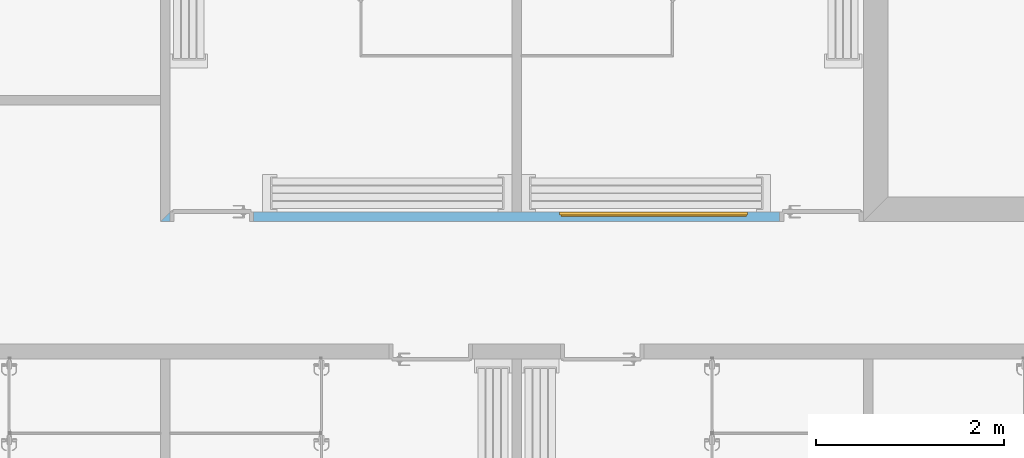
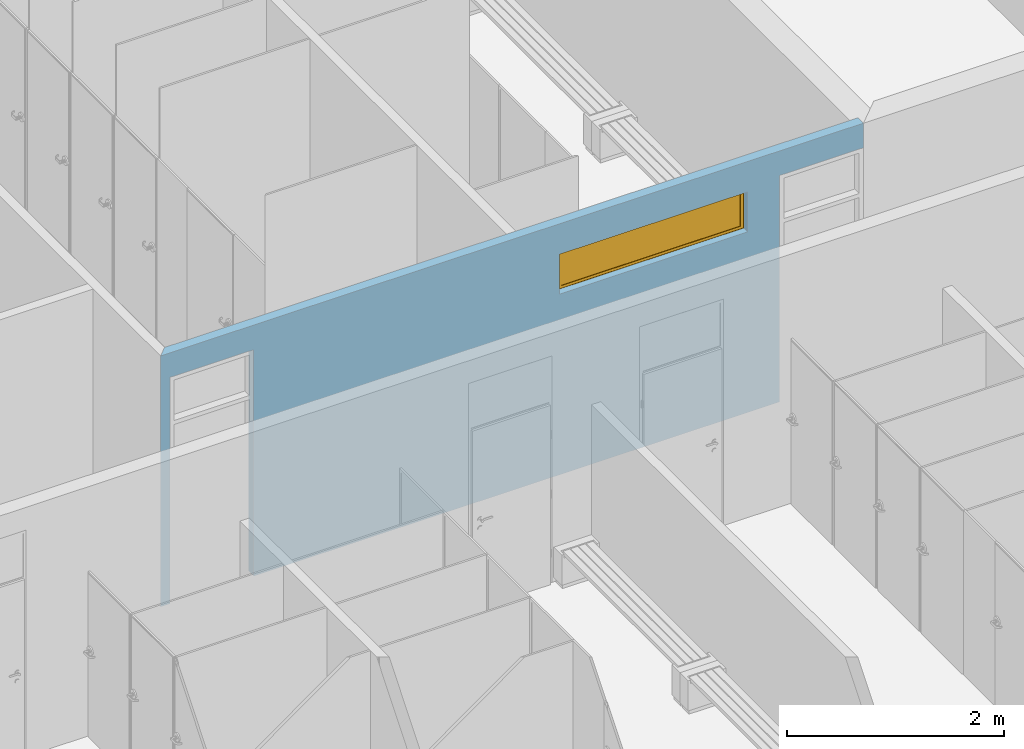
# One storey, part 37 of 45: 1 window, 3 openings, plus 1 element that does not belong to this part.
"""IFC2X3 building model written with IfcOpenShell, lengths in metres."""

from ifc_helpers import new_model, entity, si_unit, converted_unit, money_unit, direction, frame, origin_with_axes, place, context, subcontext, project, spatial, polyline, outline, extrude, open_shell, faceted_brep, surface_model, material, layer, layer_set, layer_usage, type_object, element, fill, save


model = new_model("IFC2X3")

# Units and contexts
model_context = context("Model", 3, precision=1e-05, world=origin_with_axes(), true_north=direction((0.0, 1.0)))
body_context = subcontext(model_context, "Body", "Model", "MODEL_VIEW")
ifc_project = project(units=[si_unit("LENGTHUNIT", "METRE"), si_unit("AREAUNIT", "SQUARE_METRE"), si_unit("VOLUMEUNIT", "CUBIC_METRE"), converted_unit("PLANEANGLEUNIT", "DEGREE", entity("IfcPlaneAngleMeasure", 0.0174532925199), si_unit("PLANEANGLEUNIT", "RADIAN"), dimensions=[0, 0, 0, 0, 0, 0, 0]), si_unit("SOLIDANGLEUNIT", "STERADIAN"), money_unit("EUR"), converted_unit("TIMEUNIT", "Year", entity("IfcTimeMeasure", 31556926.0), si_unit("TIMEUNIT", "SECOND"), dimensions=[0, 0, 0, 0, 0, 0, 0]), si_unit("MASSUNIT", "GRAM"), si_unit("THERMODYNAMICTEMPERATUREUNIT", "DEGREE_CELSIUS"), si_unit("LUMINOUSINTENSITYUNIT", "LUMEN")], contexts=[model_context])

# Site, building, storey
site_placement = place(None, origin_with_axes())
site = spatial("IfcSite", under=ifc_project, at=site_placement, Name="Site", CompositionType="ELEMENT")
building_placement = place(site_placement, origin_with_axes())
building = spatial("IfcBuilding", under=site, at=building_placement, Name="Bâtiment", CompositionType="ELEMENT")
storey_placement = place(building_placement, origin_with_axes())
storey = spatial("IfcBuildingStorey", under=building, at=storey_placement, Name="NIVEAU BAS GYMNASE", CompositionType="ELEMENT", Elevation=0.0)

# Wall, openings, window
ifc_material_1 = material(Name="Hachure solide* 3962059836")
ifc_layer = layer(ifc_material_1, 0.1, ventilated="UNKNOWN")
ifc_layer_set = layer_set([ifc_layer], Name="Hachure solide* 3962059836 0.1")
ifc_layer_usage = layer_usage(ifc_layer_set, "AXIS2", "POSITIVE", -0.1)
wall_type = type_object("IfcWallType", Name="Hachure solide* 3962059836 100", PredefinedType="NOTDEFINED")
wall_placement = place(storey_placement, frame((63.363457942, 14.568815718, 0.0), z_axis=(0.0, 0.0, 1.0), x_axis=(-1.0, 0.0, 0.0)))
wall = element("IfcWallStandardCase", 1, at=wall_placement, inside=storey, type_object=wall_type, material=ifc_layer_usage, Name="Mur-004", context=body_context, shape_type="SweptSolid", body=[
    extrude(outline(polyline([(0.26, -0.1), (7.63, -0.1), (7.73, 0.0), (0.26, 0.0), (0.26, -0.1)])), origin_with_axes(), (0.0, 0.0, 1.0), 2.82),
])
opening_1_placement = place(wall_placement, frame((2.48986697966, 0.0, 2.03), z_axis=(0.0, 0.0, 1.0), x_axis=(1.0, 0.0, 0.0)))
opening_1 = element("IfcOpeningElement", 2, at=opening_1_placement, cuts=wall, Name="Fen-027", context=body_context, shape_type="SweptSolid", body=[
    extrude(outline(polyline([(1.0, -0.45), (1.0, 0.0), (-1.0, 0.0), (-1.0, -0.45), (1.0, -0.45)])), frame((0.0, 0.1, 0.0), z_axis=(0.0, -1.0, 0.0), x_axis=(-1.0, 0.0, 0.0)), (0.0, 0.0, 1.0), 0.3),
])
opening_2_placement = place(wall_placement, frame((7.18500000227, 0.0, -0.01), z_axis=(0.0, 0.0, 1.0), x_axis=(1.0, 0.0, 0.0)))
element("IfcOpeningElement", 3, at=opening_2_placement, cuts=wall, Name="Por-018", context=body_context, shape_type="SweptSolid", body=[
    extrude(outline(polyline([(0.445, 0.0), (-0.445, 0.0), (-0.445, -2.555), (0.445, -2.555), (0.445, 0.0)])), frame((0.0, 0.1, 0.0), z_axis=(0.0, -1.0, 0.0), x_axis=(-1.0, 0.0, 0.0)), (0.0, 0.0, 1.0), 0.2),
])
opening_3_placement = place(wall_placement, frame((0.704999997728, 0.0, -0.01), z_axis=(0.0, 0.0, 1.0), x_axis=(1.0, 0.0, 0.0)))
element("IfcOpeningElement", 4, at=opening_3_placement, cuts=wall, Name="Por-019", context=body_context, shape_type="SweptSolid", body=[
    extrude(outline(polyline([(-0.445, 0.0), (-0.445, -2.555), (0.445, -2.555), (0.445, 0.0), (-0.445, 0.0)])), frame((0.0, 0.1, 0.0), z_axis=(0.0, -1.0, 0.0), x_axis=(-1.0, 0.0, 0.0)), (0.0, 0.0, 1.0), 0.2),
])
ifc_material_2 = material(Name="Sans Trame")
window_style = type_object("IfcWindowStyle", Name="Fen bascule 1 10", ConstructionType="NOTDEFINED", OperationType="SINGLE_PANEL", ParameterTakesPrecedence=False, Sizeable=False)
window_placement = place(opening_1_placement, frame((1.0, 0.0, 0.0), z_axis=(0.0, 0.0, 1.0), x_axis=(-1.0, 0.0, 0.0)))
window = element("IfcWindow", 5, at=window_placement, inside=storey, type_object=window_style, material=ifc_material_2, Name="Fen-027", OverallHeight=0.45, OverallWidth=2.0, context=body_context, shape_type="SurfaceModel", body=[
    faceted_brep([(1.985, 0.07, 0.42), (2.0, 0.07, 0.42), (2.0, 0.1, 0.42), (1.97, 0.1, 0.42), (1.97, 0.085, 0.42), (1.985, 0.085, 0.42), (1.985, 0.07, 0.03), (2.0, 0.07, 0.03), (2.0, 0.1, 0.03), (1.97, 0.1, 0.03), (1.97, 0.085, 0.03), (1.985, 0.085, 0.03)], [[[0, 1, 2, 3, 4, 5]], [[6, 7, 1, 0]], [[1, 7, 8, 2]], [[2, 8, 9, 3]], [[4, 3, 9, 10]], [[10, 11, 5, 4]], [[5, 11, 6, 0]], [[11, 10, 9, 8, 7, 6]]]),
    faceted_brep([(0.03, 0.085, 0.42), (0.03, 0.1, 0.42), (0.0, 0.1, 0.42), (0.0, 0.07, 0.42), (0.015, 0.07, 0.42), (0.015, 0.085, 0.42), (0.03, 0.085, 0.03), (0.03, 0.1, 0.03), (0.0, 0.1, 0.03), (0.0, 0.07, 0.03), (0.015, 0.07, 0.03), (0.015, 0.085, 0.03)], [[[0, 1, 2, 3, 4, 5]], [[6, 7, 1, 0]], [[8, 2, 1, 7]], [[9, 3, 2, 8]], [[4, 3, 9, 10]], [[10, 11, 5, 4]], [[5, 11, 6, 0]], [[11, 10, 9, 8, 7, 6]]]),
    faceted_brep([(1.985, 0.07, 0.42), (2.0, 0.07, 0.42), (2.0, 0.07, 0.45), (0.0, 0.07, 0.45), (0.0, 0.07, 0.42), (0.015, 0.07, 0.42), (0.015, 0.07, 0.435), (1.985, 0.07, 0.435), (1.985, 0.085, 0.42), (1.97, 0.085, 0.42), (1.97, 0.1, 0.42), (2.0, 0.1, 0.42), (2.0, 0.1, 0.45), (0.0, 0.1, 0.45), (0.0, 0.1, 0.42), (0.015, 0.085, 0.42), (0.03, 0.1, 0.42), (0.03, 0.085, 0.42), (0.015, 0.085, 0.435), (1.985, 0.085, 0.435)], [[[0, 1, 2, 3, 4, 5, 6, 7]], [[8, 9, 10, 11, 1, 0]], [[2, 1, 11, 12]], [[3, 2, 12, 13]], [[4, 3, 13, 14]], [[15, 5, 4, 14, 16, 17]], [[5, 15, 18, 6]], [[6, 18, 19, 7]], [[7, 19, 8, 0]], [[17, 9, 8, 19, 18, 15]], [[17, 16, 10, 9]], [[14, 13, 12, 11, 10, 16]]]),
    faceted_brep([(0.03, 0.085, 0.03), (0.03, 0.1, 0.03), (0.0, 0.1, 0.03), (0.0, 0.07, 0.03), (0.015, 0.07, 0.03), (0.015, 0.085, 0.03), (1.97, 0.085, 0.03), (1.97, 0.1, 0.03), (2.0, 0.1, 0.03), (2.0, 0.1, 0.0), (0.0, 0.1, 0.0), (0.0, 0.07, 0.0), (1.985, 0.07, 0.015), (0.015, 0.07, 0.015), (2.0, 0.07, 0.0), (2.0, 0.07, 0.03), (1.985, 0.07, 0.03), (0.015, 0.085, 0.015), (1.985, 0.085, 0.015), (1.985, 0.085, 0.03)], [[[0, 1, 2, 3, 4, 5]], [[6, 7, 1, 0]], [[8, 9, 10, 2, 1, 7]], [[11, 3, 2, 10]], [[12, 13, 4, 3, 11, 14, 15, 16]], [[13, 17, 5, 4]], [[5, 17, 18, 19, 6, 0]], [[19, 16, 15, 8, 7, 6]], [[15, 14, 9, 8]], [[14, 11, 10, 9]], [[12, 18, 17, 13]], [[19, 18, 12, 16]]]),
    faceted_brep([(0.045, 0.085, 0.045), (0.045, 0.085, 0.405), (0.045, 0.055, 0.405), (0.045, 0.055, 0.045), (0.015, 0.085, 0.045), (0.015, 0.085, 0.405), (0.015, 0.055, 0.405), (0.015, 0.055, 0.045)], [[[0, 1, 2, 3]], [[0, 4, 5, 1]], [[1, 5, 6, 2]], [[3, 2, 6, 7]], [[4, 0, 3, 7]], [[5, 4, 7, 6]]]),
    faceted_brep([(1.985, 0.085, 0.045), (1.985, 0.085, 0.405), (1.985, 0.055, 0.405), (1.985, 0.055, 0.045), (1.955, 0.085, 0.045), (1.955, 0.085, 0.405), (1.955, 0.055, 0.405), (1.955, 0.055, 0.045)], [[[0, 1, 2, 3]], [[0, 4, 5, 1]], [[1, 5, 6, 2]], [[3, 2, 6, 7]], [[4, 0, 3, 7]], [[5, 4, 7, 6]]]),
    faceted_brep([(1.985, 0.085, 0.015), (1.985, 0.085, 0.045), (1.985, 0.055, 0.045), (1.985, 0.055, 0.015), (0.015, 0.085, 0.015), (0.015, 0.085, 0.045), (0.045, 0.085, 0.045), (1.955, 0.085, 0.045), (1.955, 0.055, 0.045), (0.045, 0.055, 0.045), (0.015, 0.055, 0.045), (0.015, 0.055, 0.015)], [[[0, 1, 2, 3]], [[0, 4, 5, 6, 7, 1]], [[1, 7, 8, 2]], [[3, 2, 8, 9, 10, 11]], [[4, 0, 3, 11]], [[5, 4, 11, 10]], [[6, 5, 10, 9]], [[7, 6, 9, 8]]]),
    faceted_brep([(0.015, 0.085, 0.435), (0.015, 0.085, 0.405), (0.015, 0.055, 0.405), (0.015, 0.055, 0.435), (1.985, 0.085, 0.435), (1.985, 0.085, 0.405), (1.955, 0.085, 0.405), (0.045, 0.085, 0.405), (0.045, 0.055, 0.405), (1.955, 0.055, 0.405), (1.985, 0.055, 0.405), (1.985, 0.055, 0.435)], [[[0, 1, 2, 3]], [[0, 4, 5, 6, 7, 1]], [[1, 7, 8, 2]], [[3, 2, 8, 9, 10, 11]], [[4, 0, 3, 11]], [[5, 4, 11, 10]], [[6, 5, 10, 9]], [[7, 6, 9, 8]]]),
    surface_model("IfcShellBasedSurfaceModel", [(0.045, 0.08, 0.045), (0.045, 0.08, 0.405), (1.955, 0.08, 0.405), (1.955, 0.08, 0.045)], [open_shell([[[0, 1, 2, 3]]])]),
    surface_model("IfcShellBasedSurfaceModel", [(0.045, 0.06, 0.045), (1.955, 0.06, 0.045), (1.955, 0.06, 0.405), (0.045, 0.06, 0.405)], [open_shell([[[0, 1, 2, 3]]])]),
])
fill(opening_1, window)

save(model, "model.ifc")
